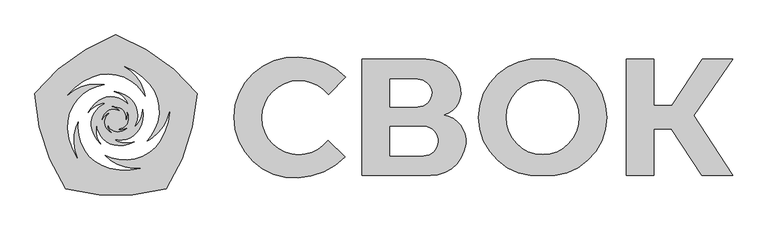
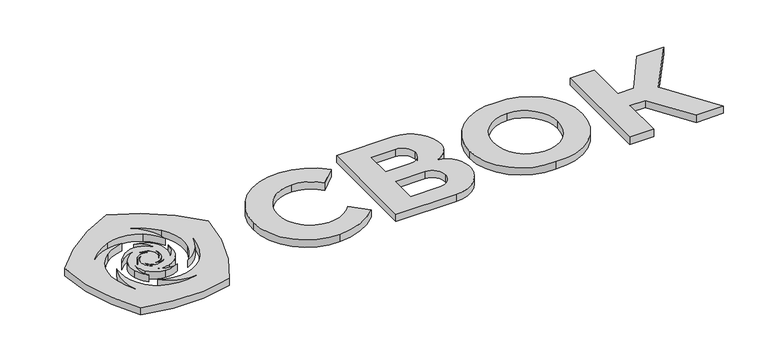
"""IFC4 building model written with IfcOpenShell, lengths in millimetres: proxy geometry, Лого : Лого."""

from ifc_helpers import new_model, si_unit, point, frame_2d, origin, origin_with_axes, place, context, project, spatial, polyline, circle_curve, trimmed, segment, composite_curve, outline, extrude, source, transform, mapped, element, save


def generic_models_e413d29a(model_context):
    return source(origin(), model_context, "Body", "SweptSolid", [
        extrude(outline(composite_curve([segment(trimmed(circle_curve(frame_2d((2246.6511987, 2222.5212745)), 352.3238737), [point((2594.5901517, 2277.9342421))], [point((2579.6818164, 2107.5311893))], False, "CARTESIAN"), True, "CONTINUOUS"), segment(trimmed(circle_curve(frame_2d((2331.3041426, 2309.876173)), 320.3669166), [point((2579.6818164, 2107.5311893))], [point((2643.4493335, 2381.9895633))], True, "CARTESIAN"), True, "CONTINUOUS"), segment(trimmed(circle_curve(frame_2d((2208.2534755, 2214.5066611)), 466.3110093), [point((2643.4493335, 2381.9895633))], [point((2671.0399378, 2157.2821237))], False, "CARTESIAN"), True, "CONTINUOUS"), segment(trimmed(circle_curve(frame_2d((2372.7719128, 2194.1636039)), 300.5396119), [point((2671.0399378, 2157.2821237))], [point((2509.4428403, 1926.4975509))], False, "CARTESIAN"), True, "CONTINUOUS"), segment(trimmed(circle_curve(frame_2d((2349.2229269, 2240.2836107)), 352.3238737), [point((2509.4428403, 1926.4975509))], [point((2342.7729776, 1888.0187812))], False, "CARTESIAN"), True, "CONTINUOUS"), segment(trimmed(circle_curve(frame_2d((2458.4615707, 2186.768025)), 320.3669166), [point((2342.7729776, 1888.0187812))], [point((2623.5036491, 1912.1845703))], True, "CARTESIAN"), True, "CONTINUOUS"), segment(trimmed(circle_curve(frame_2d((2329.7350275, 2274.3253639)), 466.3110093), [point((2623.5036491, 1912.1845703))], [point((2418.32014, 1816.5059287))], False, "CARTESIAN"), True, "CONTINUOUS"), segment(trimmed(circle_curve(frame_2d((2361.2266235, 2111.5726816)), 300.5396119), [point((2418.32014, 1816.5059287))], [point((2148.8947188, 1898.8775463))], False, "CARTESIAN"), True, "CONTINUOUS"), segment(trimmed(circle_curve(frame_2d((2397.8123197, 2148.220964)), 352.3238737), [point((2148.8947188, 1898.8775463))], [point((2060.7954141, 2045.4994115))], False, "CARTESIAN"), True, "CONTINUOUS"), segment(trimmed(circle_curve(frame_2d((2380.6725705, 2027.7916146)), 320.3669166), [point((2060.7954141, 2045.4994115))], [point((2170.5289937, 1785.9763165))], True, "CARTESIAN"), True, "CONTINUOUS"), segment(trimmed(circle_curve(frame_2d((2424.1658587, 2177.274538)), 466.3110093), [point((2170.5289937, 1785.9763165))], [point((2016.1280068, 1951.5511037))], False, "CARTESIAN"), True, "CONTINUOUS"), segment(trimmed(circle_curve(frame_2d((2279.110298, 2097.0309057)), 300.5396119), [point((2016.1280068, 1951.5511037))], [point((2011.2110366, 2233.2441358))], False, "CARTESIAN"), True, "CONTINUOUS"), segment(trimmed(circle_curve(frame_2d((2325.2704877, 2073.560783)), 352.3238737), [point((2011.2110366, 2233.2441358))], [point((2123.4325346, 2362.3402017))], False, "CARTESIAN"), True, "CONTINUOUS"), segment(trimmed(circle_curve(frame_2d((2205.4388964, 2052.6469375)), 320.3669166), [point((2123.4325346, 2362.3402017))], [point((1910.520945, 2177.7803191))], True, "CARTESIAN"), True, "CONTINUOUS"), segment(trimmed(circle_curve(frame_2d((2361.04577, 2057.4751261)), 466.3110093), [point((1910.520945, 2177.7803191))], [point((2020.2793963, 2375.7898068))], False, "CARTESIAN"), True, "CONTINUOUS"), segment(trimmed(circle_curve(frame_2d((2239.9049073, 2170.6345162)), 300.5396119), [point((2020.2793963, 2375.7898068))], [point((2286.6659628, 2467.5140575))], False, "CARTESIAN"), True, "CONTINUOUS"), segment(trimmed(circle_curve(frame_2d((2231.8477772, 2119.4809003)), 352.3238737), [point((2286.6659628, 2467.5140575))], [point((2444.1219675, 2400.6779488))], False, "CARTESIAN"), True, "CONTINUOUS"), segment(trimmed(circle_curve(frame_2d((2174.92753, 2226.9847824)), 320.3669166), [point((2444.1219675, 2400.6779488))], [point((2202.8017889, 2546.1367633))], True, "CARTESIAN"), True, "CONTINUOUS"), segment(trimmed(circle_curve(frame_2d((2227.6045785, 2080.4858436)), 466.3110093), [point((2202.8017889, 2546.1367633))], [point((2425.0372293, 2502.9385697))], False, "CARTESIAN"), True, "CONTINUOUS"), segment(trimmed(circle_curve(frame_2d((2297.7909686, 2230.6658251)), 300.5396119), [point((2425.0372293, 2502.9385697))], [point((2594.5901517, 2277.9342421))], False, "CARTESIAN"), True, "CONTINUOUS")], self_intersect=False)), origin_with_axes(), (0.0, 0.0, 1.0), 250.0),
        extrude(outline(composite_curve([segment(trimmed(circle_curve(frame_2d((2131.2506727, 2110.1044556)), 739.8801348), [point((2395.8095944, 2801.0684133))], [point((2690.0599247, 2595.0321139))], False, "CARTESIAN"), True, "CONTINUOUS"), segment(trimmed(circle_curve(frame_2d((2061.2679851, 2355.7814589)), 672.7705249), [point((2690.0599247, 2595.0321139))], [point((2257.8711768, 2999.1844152))], True, "CARTESIAN"), True, "CONTINUOUS"), segment(trimmed(circle_curve(frame_2d((2105.5088669, 2031.8569635)), 979.2531196), [point((2257.8711768, 2999.1844152))], [point((2695.5062488, 2813.4193484))], False, "CARTESIAN"), True, "CONTINUOUS"), segment(trimmed(circle_curve(frame_2d((2315.2501952, 2309.6987604)), 631.133185), [point((2695.5062488, 2813.4193484))], [point((2945.5464323, 2277.2064445))], False, "CARTESIAN"), True, "CONTINUOUS"), segment(trimmed(circle_curve(frame_2d((2206.647455, 2315.2973255)), 739.8801348), [point((2945.5464323, 2277.2064445))], [point((2840.5226199, 1933.6890325))], False, "CARTESIAN"), True, "CONTINUOUS"), segment(trimmed(circle_curve(frame_2d((2418.6743301, 2457.7731857)), 672.7705249), [point((2840.5226199, 1933.6890325))], [point((3091.3406317, 2469.6148868))], True, "CARTESIAN"), True, "CONTINUOUS"), segment(trimmed(circle_curve(frame_2d((2124.2750124, 2315.5994329)), 979.2531196), [point((3091.3406317, 2469.6148868))], [point((3049.904229, 1995.9946372))], False, "CARTESIAN"), True, "CONTINUOUS"), segment(trimmed(circle_curve(frame_2d((2453.3318986, 2201.9814128)), 631.133185), [point((3049.904229, 1995.9946372))], [point((2617.2021187, 1592.4933915))], False, "CARTESIAN"), True, "CONTINUOUS"), segment(trimmed(circle_curve(frame_2d((2425.0963581, 2306.9988083)), 739.8801348), [point((2617.2021187, 1592.4933915))], [point((2258.0435027, 1586.2242545))], False, "CARTESIAN"), True, "CONTINUOUS"), segment(trimmed(circle_curve(frame_2d((2626.1188611, 2149.3767292)), 672.7705249), [point((2258.0435027, 1586.2242545))], [point((2845.2463068, 1513.2923467))], True, "CARTESIAN"), True, "CONTINUOUS"), segment(trimmed(circle_curve(frame_2d((2399.9291946, 2385.433013)), 979.2531196), [point((2845.2463068, 1513.2923467))], [point((2382.0021296, 1406.3440014))], False, "CARTESIAN"), True, "CONTINUOUS"), segment(trimmed(circle_curve(frame_2d((2393.5562063, 2037.371418)), 631.133185), [point((2382.0021296, 1406.3440014))], [point((1864.5373349, 1693.1794209))], False, "CARTESIAN"), True, "CONTINUOUS"), segment(trimmed(circle_curve(frame_2d((2484.7084227, 2096.6771727)), 739.8801348), [point((1864.5373349, 1693.1794209))], [point((1747.5889153, 2032.8222932))], False, "CARTESIAN"), True, "CONTINUOUS"), segment(trimmed(circle_curve(frame_2d((2396.9202869, 1856.7855102)), 672.7705249), [point((1747.5889153, 2032.8222932))], [point((1859.6821947, 1451.822041))], True, "CARTESIAN"), True, "CONTINUOUS"), segment(trimmed(circle_curve(frame_2d((2551.5267029, 2144.8500697)), 979.2531196), [point((1859.6821947, 1451.822041))], [point((1614.8179507, 1859.3445782))], False, "CARTESIAN"), True, "CONTINUOUS"), segment(trimmed(circle_curve(frame_2d((2218.5310933, 2043.3541939)), 631.133185), [point((1614.8179507, 1859.3445782))], [point((1727.70923, 2440.1198623))], False, "CARTESIAN"), True, "CONTINUOUS"), segment(trimmed(circle_curve(frame_2d((2303.1018017, 1974.9897705)), 739.8801348), [point((1727.70923, 2440.1198623))], [point((2014.5897478, 2656.2998384))], False, "CARTESIAN"), True, "CONTINUOUS"), segment(trimmed(circle_curve(frame_2d((2047.823247, 1984.3506486)), 672.7705249), [point((2014.5897478, 2656.2998384))], [point((1496.6644002, 2370.1538429))], True, "CARTESIAN"), True, "CONTINUOUS"), segment(trimmed(circle_curve(frame_2d((2369.5649334, 1926.3280535)), 979.2531196), [point((1496.6644002, 2370.1538429))], [point((1808.574152, 2728.9649673))], False, "CARTESIAN"), True, "CONTINUOUS"), segment(trimmed(circle_curve(frame_2d((2170.1353169, 2211.6617475)), 631.133185), [point((1808.574152, 2728.9649673))], [point((2395.8095944, 2801.0684133))], False, "CARTESIAN"), True, "CONTINUOUS")], self_intersect=False), holes=[composite_curve([segment(trimmed(circle_curve(frame_2d((2239.9049073, 2170.6345162)), 300.5396119), [point((2286.6659628, 2467.5140575))], [point((2020.2793963, 2375.7898068))], True, "CARTESIAN"), True, "CONTINUOUS"), segment(trimmed(circle_curve(frame_2d((2361.04577, 2057.4751261)), 466.3110093), [point((2020.2793963, 2375.7898068))], [point((1910.520945, 2177.7803191))], True, "CARTESIAN"), True, "CONTINUOUS"), segment(trimmed(circle_curve(frame_2d((2205.4388964, 2052.6469375)), 320.3669166), [point((1910.520945, 2177.7803191))], [point((2123.4325346, 2362.3402017))], False, "CARTESIAN"), True, "CONTINUOUS"), segment(trimmed(circle_curve(frame_2d((2325.2704877, 2073.560783)), 352.3238737), [point((2123.4325346, 2362.3402017))], [point((2011.2110366, 2233.2441358))], True, "CARTESIAN"), True, "CONTINUOUS"), segment(trimmed(circle_curve(frame_2d((2279.110298, 2097.0309057)), 300.5396119), [point((2011.2110366, 2233.2441358))], [point((2016.1280068, 1951.5511037))], True, "CARTESIAN"), True, "CONTINUOUS"), segment(trimmed(circle_curve(frame_2d((2424.1658587, 2177.274538)), 466.3110093), [point((2016.1280068, 1951.5511037))], [point((2170.5289937, 1785.9763165))], True, "CARTESIAN"), True, "CONTINUOUS"), segment(trimmed(circle_curve(frame_2d((2380.6725705, 2027.7916146)), 320.3669166), [point((2170.5289937, 1785.9763165))], [point((2060.7954141, 2045.4994115))], False, "CARTESIAN"), True, "CONTINUOUS"), segment(trimmed(circle_curve(frame_2d((2397.8123197, 2148.220964)), 352.3238737), [point((2060.7954141, 2045.4994115))], [point((2148.8947188, 1898.8775463))], True, "CARTESIAN"), True, "CONTINUOUS"), segment(trimmed(circle_curve(frame_2d((2361.2266235, 2111.5726816)), 300.5396119), [point((2148.8947188, 1898.8775463))], [point((2418.32014, 1816.5059287))], True, "CARTESIAN"), True, "CONTINUOUS"), segment(trimmed(circle_curve(frame_2d((2329.7350275, 2274.3253639)), 466.3110093), [point((2418.32014, 1816.5059287))], [point((2623.5036491, 1912.1845703))], True, "CARTESIAN"), True, "CONTINUOUS"), segment(trimmed(circle_curve(frame_2d((2458.4615707, 2186.768025)), 320.3669166), [point((2623.5036491, 1912.1845703))], [point((2342.7729776, 1888.0187812))], False, "CARTESIAN"), True, "CONTINUOUS"), segment(trimmed(circle_curve(frame_2d((2349.2229269, 2240.2836107)), 352.3238737), [point((2342.7729776, 1888.0187812))], [point((2509.4428403, 1926.4975509))], True, "CARTESIAN"), True, "CONTINUOUS"), segment(trimmed(circle_curve(frame_2d((2372.7719128, 2194.1636039)), 300.5396119), [point((2509.4428403, 1926.4975509))], [point((2671.0399378, 2157.2821237))], True, "CARTESIAN"), True, "CONTINUOUS"), segment(trimmed(circle_curve(frame_2d((2208.2534755, 2214.5066611)), 466.3110093), [point((2671.0399378, 2157.2821237))], [point((2643.4493335, 2381.9895633))], True, "CARTESIAN"), True, "CONTINUOUS"), segment(trimmed(circle_curve(frame_2d((2331.3041426, 2309.876173)), 320.3669166), [point((2643.4493335, 2381.9895633))], [point((2579.6818164, 2107.5311893))], False, "CARTESIAN"), True, "CONTINUOUS"), segment(trimmed(circle_curve(frame_2d((2246.6511987, 2222.5212745)), 352.3238737), [point((2579.6818164, 2107.5311893))], [point((2594.5901517, 2277.9342421))], True, "CARTESIAN"), True, "CONTINUOUS"), segment(trimmed(circle_curve(frame_2d((2297.7909686, 2230.6658251)), 300.5396119), [point((2594.5901517, 2277.9342421))], [point((2425.0372293, 2502.9385697))], True, "CARTESIAN"), True, "CONTINUOUS"), segment(trimmed(circle_curve(frame_2d((2227.6045785, 2080.4858436)), 466.3110093), [point((2425.0372293, 2502.9385697))], [point((2202.8017889, 2546.1367633))], True, "CARTESIAN"), True, "CONTINUOUS"), segment(trimmed(circle_curve(frame_2d((2174.92753, 2226.9847824)), 320.3669166), [point((2202.8017889, 2546.1367633))], [point((2444.1219675, 2400.6779488))], False, "CARTESIAN"), True, "CONTINUOUS"), segment(trimmed(circle_curve(frame_2d((2231.8477772, 2119.4809003)), 352.3238737), [point((2444.1219675, 2400.6779488))], [point((2286.6659628, 2467.5140575))], True, "CARTESIAN"), True, "CONTINUOUS")], self_intersect=False)]), origin_with_axes(), (0.0, 0.0, 1.0), 250.0),
        extrude(outline(composite_curve([segment(trimmed(circle_curve(frame_2d((15000.7486497, 2232.9413941)), 1718.4316551), [point((14839.1803048, 3943.7607952))], [point((16719.1803048, 2232.9413941))], False, "CARTESIAN"), True, "CONTINUOUS"), segment(trimmed(circle_curve(frame_2d((15000.7486497, 2232.9413941)), 1718.4316551), [point((16719.1803048, 2232.9413941))], [point((14839.1803048, 522.121993))], False, "CARTESIAN"), True, "CONTINUOUS"), segment(trimmed(circle_curve(frame_2d((14677.6119599, 2232.9413941)), 1718.4316551), [point((14839.1803048, 522.121993))], [point((12959.1803048, 2232.9413941))], False, "CARTESIAN"), True, "CONTINUOUS"), segment(trimmed(circle_curve(frame_2d((14677.6119599, 2232.9413941)), 1718.4316551), [point((12959.1803048, 2232.9413941))], [point((14839.1803048, 3943.7607952))], False, "CARTESIAN"), True, "CONTINUOUS")], self_intersect=False), holes=[composite_curve([segment(trimmed(circle_curve(frame_2d((14839.1803048, 2202.55737)), 1060.4353771), [point((13779.1803048, 2232.9413941))], [point((14839.1803048, 1142.121993))], True, "CARTESIAN"), True, "CONTINUOUS"), segment(trimmed(circle_curve(frame_2d((14839.1803048, 2202.55737)), 1060.4353771), [point((14839.1803048, 1142.121993))], [point((15899.1803048, 2232.9413941))], True, "CARTESIAN"), True, "CONTINUOUS"), segment(trimmed(circle_curve(frame_2d((14839.1803048, 2263.3254181)), 1060.4353771), [point((15899.1803048, 2232.9413941))], [point((14839.1803048, 3323.7607952))], True, "CARTESIAN"), True, "CONTINUOUS"), segment(trimmed(circle_curve(frame_2d((14839.1803048, 2263.3254181)), 1060.4353771), [point((14839.1803048, 3323.7607952))], [point((13779.1803048, 2232.9413941))], True, "CARTESIAN"), True, "CONTINUOUS")], self_intersect=False)]), origin_with_axes(), (0.0, 0.0, 1.0), 250.0),
        extrude(outline(polyline([(17299.1803048, 522.121993), (17299.1803048, 3943.7607952), (18099.1803048, 3943.7607952), (18099.1803048, 2585.1144751), (18636.865068, 2585.1144751), (19519.1803048, 3943.7607952), (20414.3776361, 3943.7607952), (19270.6356626, 2283.3301857), (20414.3776361, 522.121993), (19509.4008327, 522.121993), (18619.1803048, 1892.9413941), (18099.1803048, 1892.9413941), (18099.1803048, 522.121993), (17299.1803048, 522.121993)])), origin_with_axes(), (0.0, 0.0, 1.0), 250.0),
        extrude(outline(composite_curve([segment(polyline([(9539.1803048, 522.121993), (9539.1803048, 3943.7607952), (11419.1803048, 3943.7607952)]), True, "CONTINUOUS"), segment(trimmed(circle_curve(frame_2d((11419.1803048, 2922.5112271)), 1021.2495681), [point((11419.1803048, 3943.7607952))], [point((12430.4911423, 3064.6416963))], False, "CARTESIAN"), True, "CONTINUOUS"), segment(trimmed(circle_curve(frame_2d((11745.9594815, 2968.4370454)), 691.2589453), [point((12430.4911423, 3064.6416963))], [point((11941.6591359, 2305.4584825))], False, "CARTESIAN"), True, "CONTINUOUS"), segment(trimmed(circle_curve(frame_2d((11806.7122804, 1540.1368342)), 777.1279684), [point((11941.6591359, 2305.4584825))], [point((12579.5830604, 1458.9048419))], False, "CARTESIAN"), True, "CONTINUOUS"), segment(trimmed(circle_curve(frame_2d((11539.1803048, 1568.2555779)), 1046.1335849), [point((12579.5830604, 1458.9048419))], [point((11539.1803048, 522.121993))], False, "CARTESIAN"), True, "CONTINUOUS"), segment(polyline([(11539.1803048, 522.121993), (9539.1803048, 522.121993)]), True, "CONTINUOUS")], self_intersect=False), holes=[composite_curve([segment(polyline([(10358.7598693, 2538.8433778), (11158.7598693, 2538.8433778)]), True, "CONTINUOUS"), segment(trimmed(circle_curve(frame_2d((11158.7598693, 2962.2069491)), 423.3635713), [point((11158.7598693, 2538.8433778))], [point((11582.1234406, 2962.2069491))], True, "CARTESIAN"), True, "CONTINUOUS"), segment(trimmed(circle_curve(frame_2d((11158.7598693, 2934.5793091)), 424.2640687), [point((11582.1234406, 2962.2069491))], [point((11158.7598693, 3358.8433778))], True, "CARTESIAN"), True, "CONTINUOUS"), segment(polyline([(11158.7598693, 3358.8433778), (10358.7598693, 3358.8433778), (10358.7598693, 2538.8433778)]), True, "CONTINUOUS")], self_intersect=False), composite_curve([segment(polyline([(10358.7598693, 1103.8433778), (11338.7598693, 1103.8433778)]), True, "CONTINUOUS"), segment(trimmed(circle_curve(frame_2d((11338.7598693, 1527.2069491)), 423.3635713), [point((11338.7598693, 1103.8433778))], [point((11761.9150367, 1513.9247122))], True, "CARTESIAN"), True, "CONTINUOUS"), segment(trimmed(circle_curve(frame_2d((11338.7598693, 1544.5793091)), 424.2640687), [point((11761.9150367, 1513.9247122))], [point((11338.7598693, 1968.8433778))], True, "CARTESIAN"), True, "CONTINUOUS"), segment(polyline([(11338.7598693, 1968.8433778), (10358.7598693, 1968.8433778), (10358.7598693, 1103.8433778)]), True, "CONTINUOUS")], self_intersect=False)]), origin_with_axes(), (0.0, 0.0, 1.0), 250.0),
        extrude(outline(composite_curve([segment(polyline([(9049.6728963, 3413.7359997), (8545.5156486, 2909.578752)]), True, "CONTINUOUS"), segment(trimmed(circle_curve(frame_2d((7677.9922102, 2184.9454945)), 1130.3496247), [point((8545.5156486, 2909.578752))], [point((7675.4601731, 3315.2922832))], True, "CARTESIAN"), True, "CONTINUOUS"), segment(trimmed(circle_curve(frame_2d((7675.4601731, 2226.3478402)), 1088.944443), [point((7675.4601731, 3315.2922832))], [point((6586.5157301, 2226.3478402))], True, "CARTESIAN"), True, "CONTINUOUS"), segment(trimmed(circle_curve(frame_2d((7675.4601731, 2226.3478402)), 1088.944443), [point((6586.5157301, 2226.3478402))], [point((7675.4601731, 1137.4033972))], True, "CARTESIAN"), True, "CONTINUOUS"), segment(trimmed(circle_curve(frame_2d((7675.4601731, 2226.3478402)), 1088.944443), [point((7675.4601731, 1137.4033972))], [point((8533.5601043, 1555.9266979))], True, "CARTESIAN"), True, "CONTINUOUS"), segment(polyline([(8533.5601043, 1555.9266979), (9042.6227097, 1074.2226946)]), True, "CONTINUOUS"), segment(trimmed(circle_curve(frame_2d((7540.0449527, 2580.5366575)), 2127.6093793), [point((9042.6227097, 1074.2226946))], [point((7654.0336141, 455.9829971))], False, "CARTESIAN"), True, "CONTINUOUS"), segment(trimmed(circle_curve(frame_2d((7558.6944787, 2232.9413941)), 1779.5141739), [point((7654.0336141, 455.9829971))], [point((5779.1803048, 2232.9413941))], False, "CARTESIAN"), True, "CONTINUOUS"), segment(trimmed(circle_curve(frame_2d((7548.4323417, 2232.9413941)), 1769.2520369), [point((5779.1803048, 2232.9413941))], [point((7659.1780083, 3998.7239876))], False, "CARTESIAN"), True, "CONTINUOUS"), segment(trimmed(circle_curve(frame_2d((7659.1780083, 2053.652442)), 1945.0715456), [point((7659.1780083, 3998.7239876))], [point((9049.6728963, 3413.7359997))], False, "CARTESIAN"), True, "CONTINUOUS")], self_intersect=False)), origin_with_axes(), (0.0, 0.0, 1.0), 250.0),
        extrude(outline(composite_curve([segment(trimmed(circle_curve(frame_2d((4239.4816878, -494.6686867)), 5504.6594068), [point((-67.4803487, 2933.3559925))], [point((2310.160942, 4660.8135065))], False, "CARTESIAN"), True, "CONTINUOUS"), segment(trimmed(circle_curve(frame_2d((380.8401963, -494.6686867)), 5504.6594068), [point((2310.160942, 4660.8135065))], [point((4687.8022328, 2933.3559925))], False, "CARTESIAN"), True, "CONTINUOUS"), segment(trimmed(circle_curve(frame_2d((-811.5455998, 3175.1174478)), 5504.6594068), [point((4687.8022328, 2933.3559925))], [point((3779.6240728, 138.2710206))], False, "CARTESIAN"), True, "CONTINUOUS"), segment(trimmed(circle_curve(frame_2d((2310.160942, 5443.1700104)), 5504.6594068), [point((3779.6240728, 138.2710206))], [point((840.6978113, 138.2710206))], False, "CARTESIAN"), True, "CONTINUOUS"), segment(trimmed(circle_curve(frame_2d((5431.8674839, 3175.1174478)), 5504.6594068), [point((840.6978113, 138.2710206))], [point((-67.4803487, 2933.3559925))], False, "CARTESIAN"), True, "CONTINUOUS")], self_intersect=False), holes=[composite_curve([segment(trimmed(circle_curve(frame_2d((2319.8792071, 1703.006867)), 1853.7511646), [point((1626.9209209, 3422.3678512))], [point((898.805626, 2893.3611241))], True, "CARTESIAN"), True, "CONTINUOUS"), segment(trimmed(circle_curve(frame_2d((1751.1325112, 1947.0398394)), 1273.5717856), [point((898.805626, 2893.3611241))], [point((1975.9746356, 3200.6071939))], False, "CARTESIAN"), True, "CONTINUOUS"), segment(trimmed(circle_curve(frame_2d((2218.0094803, 1821.066298)), 1400.611991), [point((1975.9746356, 3200.6071939))], [point((1354.7637244, 2924.0262766))], True, "CARTESIAN"), True, "CONTINUOUS"), segment(trimmed(circle_curve(frame_2d((2091.1303569, 1983.178413)), 1194.7512378), [point((1354.7637244, 2924.0262766))], [point((899.2186841, 1900.8553641))], True, "CARTESIAN"), True, "CONTINUOUS"), segment(trimmed(circle_curve(frame_2d((2748.5640388, 2028.586094)), 1853.7511646), [point((899.2186841, 1900.8553641))], [point((1177.3339791, 1044.9044994))], True, "CARTESIAN"), True, "CONTINUOUS"), segment(trimmed(circle_curve(frame_2d((2340.7224957, 1563.0861785)), 1273.5717856), [point((1177.3339791, 1044.9044994))], [point((1217.989132, 2164.2973621))], False, "CARTESIAN"), True, "CONTINUOUS"), segment(trimmed(circle_curve(frame_2d((2604.8033708, 1968.1845971)), 1400.611991), [point((1217.989132, 2164.2973621))], [point((1289.0684871, 1488.0224733))], True, "CARTESIAN"), True, "CONTINUOUS"), segment(trimmed(circle_curve(frame_2d((2411.4177822, 1897.6107786)), 1194.7512378), [point((1289.0684871, 1488.0224733))], [point((2121.3906916, 738.5961942))], True, "CARTESIAN"), True, "CONTINUOUS"), segment(trimmed(circle_curve(frame_2d((2571.3906916, 2536.8991109)), 1853.7511646), [point((2121.3906916, 738.5961942))], [point((3021.3906916, 738.5961942))], True, "CARTESIAN"), True, "CONTINUOUS"), segment(trimmed(circle_curve(frame_2d((2888.0774518, 2005.1713689)), 1273.5717856), [point((3021.3906916, 738.5961942))], [point((1969.3479484, 1123.1729603))], False, "CARTESIAN"), True, "CONTINUOUS"), segment(trimmed(circle_curve(frame_2d((2584.4114393, 2381.5095017)), 1400.611991), [point((1969.3479484, 1123.1729603))], [point((2634.4883169, 981.7930105))], True, "CARTESIAN"), True, "CONTINUOUS"), segment(trimmed(circle_curve(frame_2d((2591.771696, 2175.7803683)), 1194.7512378), [point((2634.4883169, 981.7930105))], [point((3604.4367691, 1541.7930105))], True, "CARTESIAN"), True, "CONTINUOUS"), segment(trimmed(circle_curve(frame_2d((2033.2067094, 2525.4746052)), 1853.7511646), [point((3604.4367691, 1541.7930105))], [point((3882.5520641, 2397.7438752))], True, "CARTESIAN"), True, "CONTINUOUS"), segment(trimmed(circle_curve(frame_2d((2636.7714341, 2662.3487034)), 1273.5717856), [point((3882.5520641, 2397.7438752))], [point((3191.6987382, 1516.0325252))], False, "CARTESIAN"), True, "CONTINUOUS"), segment(trimmed(circle_curve(frame_2d((2185.014642, 2489.8400422)), 1400.611991), [point((3191.6987382, 1516.0325252))], [point((3531.6987382, 2104.9297998))], True, "CARTESIAN"), True, "CONTINUOUS"), segment(trimmed(circle_curve(frame_2d((2382.9491194, 2433.2662637)), 1194.7512378), [point((3531.6987382, 2104.9297998))], [point((3298.8376445, 3200.4551126))], True, "CARTESIAN"), True, "CONTINUOUS"), segment(trimmed(circle_curve(frame_2d((1877.7640634, 2010.1008555)), 1853.7511646), [point((3298.8376445, 3200.4551126))], [point((2570.7223495, 3729.4618397))], True, "CARTESIAN"), True, "CONTINUOUS"), segment(trimmed(circle_curve(frame_2d((1934.1008175, 2626.4214424)), 1273.5717856), [point((2570.7223495, 3729.4618397))], [point((3195.7942561, 2799.957491))], False, "CARTESIAN"), True, "CONTINUOUS"), segment(trimmed(circle_curve(frame_2d((1958.5657778, 2143.4670935)), 1400.611991), [point((3195.7942561, 2799.957491))], [point((2740.7854437, 3305.2959723))], True, "CARTESIAN"), True, "CONTINUOUS"), segment(trimmed(circle_curve(frame_2d((2073.5357557, 2314.2317091)), 1194.7512378), [point((2740.7854437, 3305.2959723))], [point((1626.9209209, 3422.3678512))], True, "CARTESIAN"), True, "CONTINUOUS")], self_intersect=False)]), origin_with_axes(), (0.0, 0.0, 1.0), 250.0),
    ])


if __name__ == "__main__":
    model = new_model("IFC4")
    model_context = context("Model", 3, world=origin())
    ifc_project = project(units=[si_unit("LENGTHUNIT", "METRE", prefix="MILLI")], contexts=[model_context])
    site = spatial("IfcSite", under=ifc_project)
    building = spatial("IfcBuilding", under=site)
    placement = place(None, origin())
    generic_models_shape = generic_models_e413d29a(model_context)
    element("IfcBuildingElementProxy", 1, Name="Лого : Лого", ObjectType="Лого : Лого", at=placement, inside=building, context=model_context, shape_type="MappedRepresentation", body=[
        mapped(generic_models_shape, transform((0.0, 0.0, 0.0), x_axis=(1.0, 0.0, 0.0), y_axis=(0.0, 1.0, 0.0), z_axis=(0.0, 0.0, 1.0))),
    ])
    save(model, "model.ifc")
